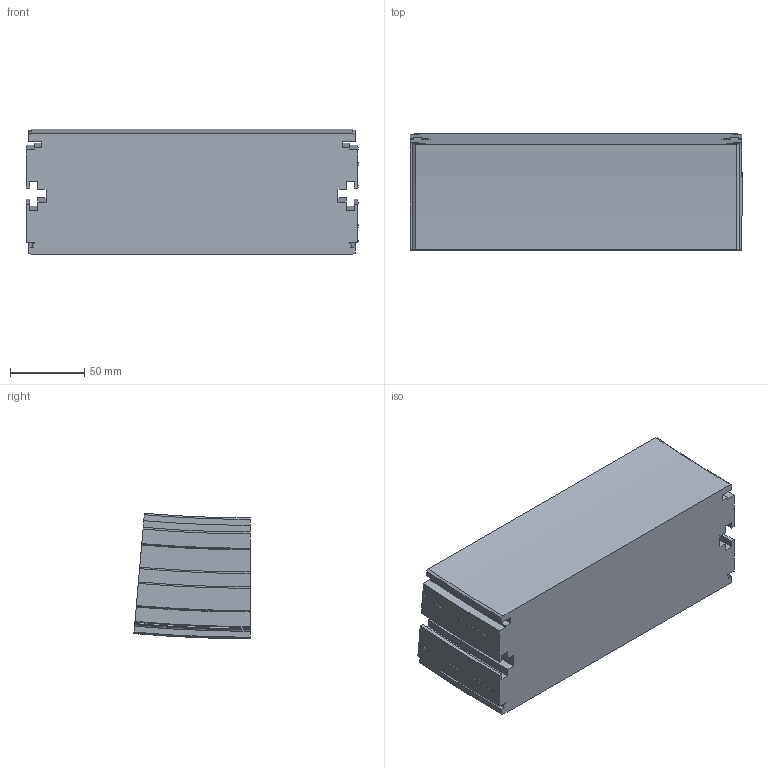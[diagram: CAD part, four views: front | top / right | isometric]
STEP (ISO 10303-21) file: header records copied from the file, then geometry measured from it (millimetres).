
FILE_DESCRIPTION(/* description */ ('VERTIKALKURVA S220 R860'),/* implementation_level */ '2;1');
FILE_NAME(/* name */ '\\carryline.intra\privat\users\mathias\Desktop\Tillfälliga filer\220-5695+220-2000-NER-01.stp',/* time_stamp */ '2018-11-29T14:39:14+01:00',/* author */ ('MD'),/* organization */ ('CARRYLINE'),/* preprocessor_version */ 'ST-DEVELOPER v17',/* originating_system */ 'Autodesk Inventor 2018',/* authorisation */ '');
FILE_SCHEMA (('AUTOMOTIVE_DESIGN { 1 0 10303 214 3 1 1 }'));
Length unit declared in the file: millimetre
Products named in the file (1): 220-5695+220-2000-NER-01
Bounding box: 224 x 78.4 x 84.61 mm (x, y, z)
Volume: 1326284.9 mm3; surface area: 91813 mm2
Topology: 1 solids, 1 shells, 113 faces, 318 edges, 212 vertices
Faces by surface type: plane 48, cylinder 31, bspline 14, cone 14, torus 6
Entity records: 8328 total; most frequent: CARTESIAN_POINT 5360, ORIENTED_EDGE 636, DIRECTION 576, EDGE_CURVE 318, VERTEX_POINT 212, AXIS2_PLACEMENT_3D 199, LINE 178, VECTOR 178
